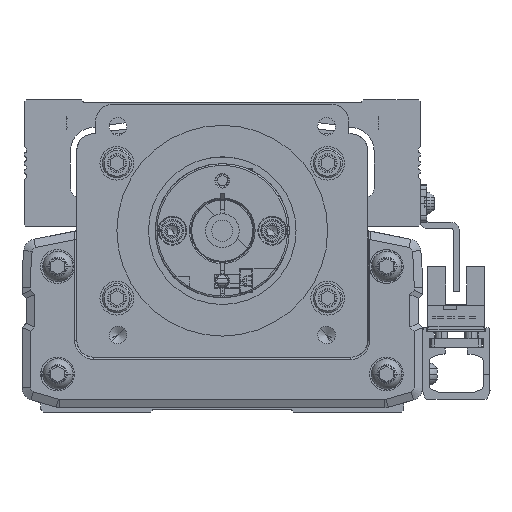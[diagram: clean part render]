
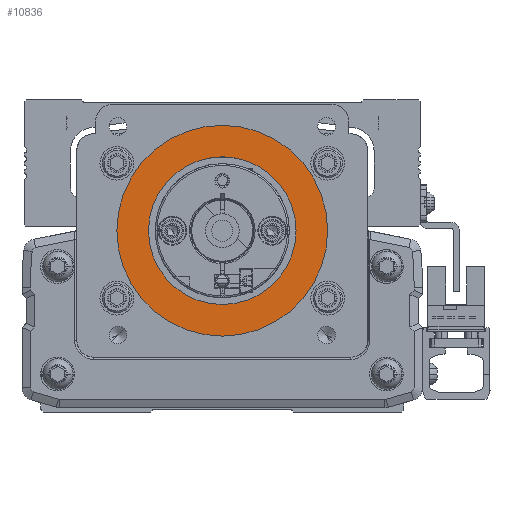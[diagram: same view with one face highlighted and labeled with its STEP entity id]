
A CAD part, front view. The second image highlights one B-rep face of the part: STEP entity #10836.
In plain terms, the highlighted planar face has unit normal (0, -1, 0).
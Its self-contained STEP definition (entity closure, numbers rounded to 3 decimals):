
#10836=ADVANCED_FACE('',(#22114,#22115),#22116,.T.);
#22114=FACE_BOUND('',#35711,.T.);
#22115=FACE_OUTER_BOUND('',#35712,.T.);
#22116=PLANE('',#35713);
#35711=EDGE_LOOP('',(#66504,#66505));
#35712=EDGE_LOOP('',(#66506,#66507));
#35713=AXIS2_PLACEMENT_3D('',#66508,#66509,#66510);
#66504=ORIENTED_EDGE('',*,*,#75729,.T.);
#66505=ORIENTED_EDGE('',*,*,#76038,.T.);
#66506=ORIENTED_EDGE('',*,*,#81471,.F.);
#66507=ORIENTED_EDGE('',*,*,#80914,.F.);
#66508=CARTESIAN_POINT('',(0.,-360.778,0.));
#66509=DIRECTION('',(0.,-1.0,0.));
#66510=DIRECTION('',(1.0,0.,0.));
#75729=EDGE_CURVE('',#92638,#92636,#92639,.T.);
#76038=EDGE_CURVE('',#92636,#92638,#93111,.T.);
#80914=EDGE_CURVE('',#99595,#99593,#99597,.T.);
#81471=EDGE_CURVE('',#99593,#99595,#100237,.T.);
#92636=VERTEX_POINT('',#115696);
#92638=VERTEX_POINT('',#115699);
#92639=CIRCLE('',#115700,17.5);
#93111=CIRCLE('',#116413,17.5);
#99593=VERTEX_POINT('',#125922);
#99595=VERTEX_POINT('',#125925);
#99597=CIRCLE('',#125928,25.0);
#100237=CIRCLE('',#126922,25.0);
#115696=CARTESIAN_POINT('',(-17.5,-360.778,0.));
#115699=CARTESIAN_POINT('',(17.5,-360.778,0.));
#115700=AXIS2_PLACEMENT_3D('',#136774,#136775,#136776);
#116413=AXIS2_PLACEMENT_3D('',#137178,#137179,#137180);
#125922=CARTESIAN_POINT('',(25.,-360.778,0.));
#125925=CARTESIAN_POINT('',(-25.,-360.778,0.));
#125928=AXIS2_PLACEMENT_3D('',#142978,#142979,#142980);
#126922=AXIS2_PLACEMENT_3D('',#143510,#143511,#143512);
#136774=CARTESIAN_POINT('',(0.,-360.778,0.));
#136775=DIRECTION('',(0.,1.0,0.));
#136776=DIRECTION('',(-1.0,0.,0.));
#137178=CARTESIAN_POINT('',(0.,-360.778,0.));
#137179=DIRECTION('',(0.,1.0,0.));
#137180=DIRECTION('',(-1.0,0.,0.));
#142978=CARTESIAN_POINT('',(0.,-360.778,0.));
#142979=DIRECTION('',(0.,1.0,0.));
#142980=DIRECTION('',(1.0,0.,0.));
#143510=CARTESIAN_POINT('',(0.,-360.778,0.));
#143511=DIRECTION('',(0.,1.0,0.));
#143512=DIRECTION('',(1.0,0.,0.));
